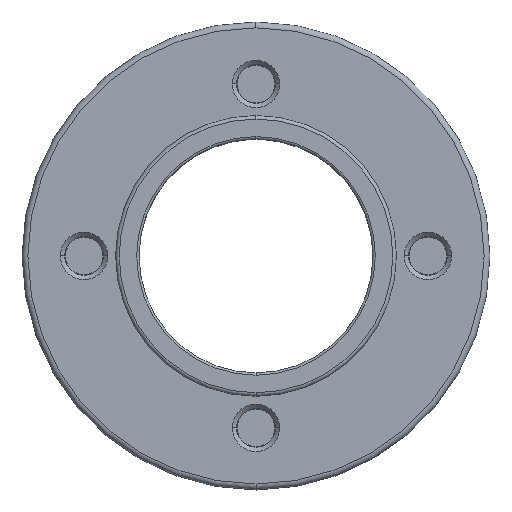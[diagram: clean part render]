
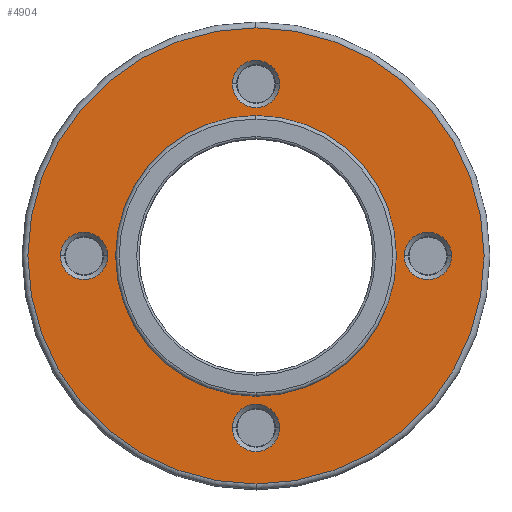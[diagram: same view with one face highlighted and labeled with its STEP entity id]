
A CAD part, top view. The second image highlights one B-rep face of the part: STEP entity #4904.
In plain terms, the highlighted planar face has unit normal (0, 0, 1).
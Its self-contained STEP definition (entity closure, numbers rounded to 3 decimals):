
#98 = ORIENTED_EDGE ( 'NONE', *, *, #2913, .F. ) ;
#100 = ORIENTED_EDGE ( 'NONE', *, *, #2893, .F. ) ;
#101 = ORIENTED_EDGE ( 'NONE', *, *, #3062, .F. ) ;
#103 = ORIENTED_EDGE ( 'NONE', *, *, #4098, .F. ) ;
#104 = ORIENTED_EDGE ( 'NONE', *, *, #2995, .F. ) ;
#105 = ORIENTED_EDGE ( 'NONE', *, *, #4047, .F. ) ;
#106 = ORIENTED_EDGE ( 'NONE', *, *, #3053, .F. ) ;
#401 = AXIS2_PLACEMENT_3D ( 'NONE', #4213, #4209, #4215 ) ;
#748 = ORIENTED_EDGE ( 'NONE', *, *, #2942, .T. ) ;
#749 = ORIENTED_EDGE ( 'NONE', *, *, #4072, .F. ) ;
#755 = ORIENTED_EDGE ( 'NONE', *, *, #3000, .F. ) ;
#770 = ORIENTED_EDGE ( 'NONE', *, *, #2896, .T. ) ;
#850 = CARTESIAN_POINT ( 'NONE',  ( 0., 0., 22.5 ) ) ;
#851 = DIRECTION ( 'NONE',  ( 0., 0., 1. ) ) ;
#852 = DIRECTION ( 'NONE',  ( 0., -1., 0. ) ) ;
#931 = CARTESIAN_POINT ( 'NONE',  ( 0., -14.7, 22.5 ) ) ;
#932 = DIRECTION ( 'NONE',  ( 0., 0., 1. ) ) ;
#933 = DIRECTION ( 'NONE',  ( 1., 0., 0. ) ) ;
#1277 = CARTESIAN_POINT ( 'NONE',  ( -12.675, 0., 22.5 ) ) ;
#1286 = CARTESIAN_POINT ( 'NONE',  ( 0., 19.5, 22.5 ) ) ;
#1314 = CARTESIAN_POINT ( 'NONE',  ( 0., 12., 22.5 ) ) ;
#1341 = CARTESIAN_POINT ( 'NONE',  ( -2.025, -14.7, 22.5 ) ) ;
#1342 = CARTESIAN_POINT ( 'NONE',  ( -16.725, 0., 22.5 ) ) ;
#1343 = CARTESIAN_POINT ( 'NONE',  ( 2.025, 14.7, 22.5 ) ) ;
#1378 = CARTESIAN_POINT ( 'NONE',  ( 0., -19.5, 22.5 ) ) ;
#1413 = CARTESIAN_POINT ( 'NONE',  ( -2.025, 14.7, 22.5 ) ) ;
#1481 = CARTESIAN_POINT ( 'NONE',  ( -14.7, 0., 22.5 ) ) ;
#1482 = DIRECTION ( 'NONE',  ( 0., 0., 1. ) ) ;
#1483 = DIRECTION ( 'NONE',  ( 1., 0., 0. ) ) ;
#1488 = CARTESIAN_POINT ( 'NONE',  ( 0., 0., 22.5 ) ) ;
#1489 = DIRECTION ( 'NONE',  ( 0., 0., 1. ) ) ;
#1490 = DIRECTION ( 'NONE',  ( 0., -1., 0. ) ) ;
#1532 = CARTESIAN_POINT ( 'NONE',  ( 14.7, 0., 22.5 ) ) ;
#1533 = DIRECTION ( 'NONE',  ( 0., 0., 1. ) ) ;
#1534 = DIRECTION ( 'NONE',  ( 1., 0., 0. ) ) ;
#1633 = CARTESIAN_POINT ( 'NONE',  ( 0., -14.7, 22.5 ) ) ;
#1634 = DIRECTION ( 'NONE',  ( 0., 0., 1. ) ) ;
#1635 = DIRECTION ( 'NONE',  ( 1., 0., 0. ) ) ;
#1715 = AXIS2_PLACEMENT_3D ( 'NONE', #3168, #3169, #3170 ) ;
#1724 = AXIS2_PLACEMENT_3D ( 'NONE', #3807, #3808, #3809 ) ;
#1728 = AXIS2_PLACEMENT_3D ( 'NONE', #3831, #3832, #3833 ) ;
#1746 = AXIS2_PLACEMENT_3D ( 'NONE', #6370, #6371, #6372 ) ;
#1758 = AXIS2_PLACEMENT_3D ( 'NONE', #850, #851, #852 ) ;
#1769 = AXIS2_PLACEMENT_3D ( 'NONE', #931, #932, #933 ) ;
#1886 = CARTESIAN_POINT ( 'NONE',  ( 0., -12., 22.5 ) ) ;
#2139 = EDGE_LOOP ( 'NONE', ( #105, #106 ) ) ;
#2574 = EDGE_LOOP ( 'NONE', ( #103, #104 ) ) ;
#2593 = VERTEX_POINT ( 'NONE', #1277 ) ;
#2605 = EDGE_LOOP ( 'NONE', ( #100, #101 ) ) ;
#2629 = VERTEX_POINT ( 'NONE', #1286 ) ;
#2671 = VERTEX_POINT ( 'NONE', #1314 ) ;
#2716 = VERTEX_POINT ( 'NONE', #1341 ) ;
#2718 = VERTEX_POINT ( 'NONE', #1342 ) ;
#2719 = VERTEX_POINT ( 'NONE', #1343 ) ;
#2767 = VERTEX_POINT ( 'NONE', #1378 ) ;
#2793 = EDGE_LOOP ( 'NONE', ( #98, #7078 ) ) ;
#2807 = EDGE_LOOP ( 'NONE', ( #748, #770 ) ) ;
#2820 = VERTEX_POINT ( 'NONE', #1413 ) ;
#2835 = EDGE_LOOP ( 'NONE', ( #755, #749 ) ) ;
#2893 = EDGE_CURVE ( 'NONE', #2593, #2718, #5454, .T. ) ;
#2896 = EDGE_CURVE ( 'NONE', #2629, #2767, #5460, .T. ) ;
#2913 = EDGE_CURVE ( 'NONE', #6866, #6862, #5486, .T. ) ;
#2942 = EDGE_CURVE ( 'NONE', #2767, #2629, #5530, .T. ) ;
#2995 = EDGE_CURVE ( 'NONE', #2716, #6855, #5632, .T. ) ;
#3000 = EDGE_CURVE ( 'NONE', #6975, #2671, #5642, .T. ) ;
#3040 = EDGE_CURVE ( 'NONE', #6862, #6866, #5699, .T. ) ;
#3053 = EDGE_CURVE ( 'NONE', #2820, #2719, #5716, .T. ) ;
#3062 = EDGE_CURVE ( 'NONE', #2718, #2593, #5729, .T. ) ;
#3063 = DIRECTION ( 'NONE',  ( 0., 0., 1. ) ) ;
#3064 = DIRECTION ( 'NONE',  ( 0., -1., 0. ) ) ;
#3168 = CARTESIAN_POINT ( 'NONE',  ( 14.7, 0., 22.5 ) ) ;
#3169 = DIRECTION ( 'NONE',  ( 0., 0., 1. ) ) ;
#3170 = DIRECTION ( 'NONE',  ( 1., 0., 0. ) ) ;
#3807 = CARTESIAN_POINT ( 'NONE',  ( 0., 14.7, 22.5 ) ) ;
#3808 = DIRECTION ( 'NONE',  ( 0., 0., 1. ) ) ;
#3809 = DIRECTION ( 'NONE',  ( 1., 0., 0. ) ) ;
#3831 = CARTESIAN_POINT ( 'NONE',  ( -14.7, 0., 22.5 ) ) ;
#3832 = DIRECTION ( 'NONE',  ( 0., 0., 1. ) ) ;
#3833 = DIRECTION ( 'NONE',  ( 1., 0., 0. ) ) ;
#4047 = EDGE_CURVE ( 'NONE', #2719, #2820, #5806, .T. ) ;
#4072 = EDGE_CURVE ( 'NONE', #2671, #6975, #5830, .T. ) ;
#4098 = EDGE_CURVE ( 'NONE', #6855, #2716, #5872, .T. ) ;
#4209 = DIRECTION ( 'NONE',  ( 0., 0., -1. ) ) ;
#4210 = PLANE ( 'NONE',  #401 ) ;
#4213 = CARTESIAN_POINT ( 'NONE',  ( 0., 12., 22.5 ) ) ;
#4215 = DIRECTION ( 'NONE',  ( 0., 1., 0. ) ) ;
#4511 = CARTESIAN_POINT ( 'NONE',  ( 12.675, 0., 22.5 ) ) ;
#4529 = CARTESIAN_POINT ( 'NONE',  ( 2.025, -14.7, 22.5 ) ) ;
#4544 = CARTESIAN_POINT ( 'NONE',  ( 16.725, 0., 22.5 ) ) ;
#4677 = CARTESIAN_POINT ( 'NONE',  ( 0., 0., 22.5 ) ) ;
#4678 = DIRECTION ( 'NONE',  ( 0., 0., 1. ) ) ;
#4679 = DIRECTION ( 'NONE',  ( 0., -1., 0. ) ) ;
#4714 = CARTESIAN_POINT ( 'NONE',  ( 0., 0., 22.5 ) ) ;
#4904 = ADVANCED_FACE ( 'NONE', ( #6553, #6542, #6554, #6552, #6550, #6555 ), #4210, .F. ) ;
#5454 = CIRCLE ( 'NONE', #6225, 2.025 ) ;
#5460 = CIRCLE ( 'NONE', #6226, 19.5 ) ;
#5486 = CIRCLE ( 'NONE', #6234, 2.025 ) ;
#5530 = CIRCLE ( 'NONE', #6244, 19.5 ) ;
#5632 = CIRCLE ( 'NONE', #6267, 2.025 ) ;
#5642 = CIRCLE ( 'NONE', #6270, 12. ) ;
#5699 = CIRCLE ( 'NONE', #1715, 2.025 ) ;
#5716 = CIRCLE ( 'NONE', #1724, 2.025 ) ;
#5729 = CIRCLE ( 'NONE', #1728, 2.025 ) ;
#5806 = CIRCLE ( 'NONE', #1746, 2.025 ) ;
#5830 = CIRCLE ( 'NONE', #1758, 12. ) ;
#5872 = CIRCLE ( 'NONE', #1769, 2.025 ) ;
#6225 = AXIS2_PLACEMENT_3D ( 'NONE', #1481, #1482, #1483 ) ;
#6226 = AXIS2_PLACEMENT_3D ( 'NONE', #1488, #1489, #1490 ) ;
#6234 = AXIS2_PLACEMENT_3D ( 'NONE', #1532, #1533, #1534 ) ;
#6244 = AXIS2_PLACEMENT_3D ( 'NONE', #4677, #4678, #4679 ) ;
#6267 = AXIS2_PLACEMENT_3D ( 'NONE', #1633, #1634, #1635 ) ;
#6270 = AXIS2_PLACEMENT_3D ( 'NONE', #4714, #3063, #3064 ) ;
#6370 = CARTESIAN_POINT ( 'NONE',  ( 0., 14.7, 22.5 ) ) ;
#6371 = DIRECTION ( 'NONE',  ( 0., 0., 1. ) ) ;
#6372 = DIRECTION ( 'NONE',  ( 1., 0., 0. ) ) ;
#6542 = FACE_BOUND ( 'NONE', #2574, .T. ) ;
#6550 = FACE_BOUND ( 'NONE', #2835, .T. ) ;
#6552 = FACE_BOUND ( 'NONE', #2139, .T. ) ;
#6553 = FACE_BOUND ( 'NONE', #2793, .T. ) ;
#6554 = FACE_BOUND ( 'NONE', #2605, .T. ) ;
#6555 = FACE_OUTER_BOUND ( 'NONE', #2807, .T. ) ;
#6855 = VERTEX_POINT ( 'NONE', #4529 ) ;
#6862 = VERTEX_POINT ( 'NONE', #4511 ) ;
#6866 = VERTEX_POINT ( 'NONE', #4544 ) ;
#6975 = VERTEX_POINT ( 'NONE', #1886 ) ;
#7078 = ORIENTED_EDGE ( 'NONE', *, *, #3040, .F. ) ;
